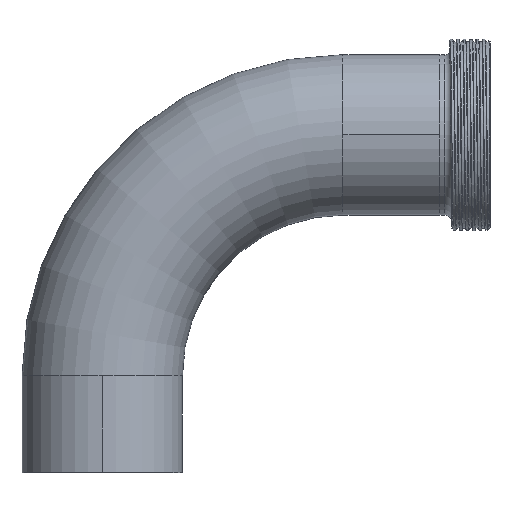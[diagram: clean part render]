
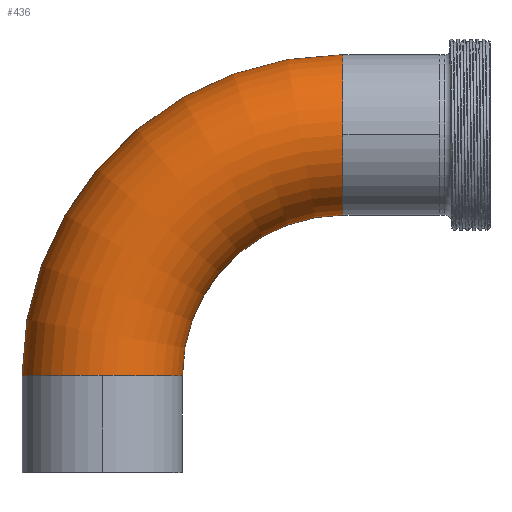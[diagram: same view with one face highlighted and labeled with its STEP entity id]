
A CAD part, top view. The second image highlights one B-rep face of the part: STEP entity #436.
In plain terms, the highlighted toroidal (fillet/blend) face has major radius 114.3 mm and minor radius 38.1 mm.
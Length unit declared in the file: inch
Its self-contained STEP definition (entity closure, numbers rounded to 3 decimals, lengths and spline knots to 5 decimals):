
#24 = AXIS2_PLACEMENT_3D ( 'NONE', #3889, #1695, #4258 ) ;
#179 = EDGE_CURVE ( 'NONE', #1312, #1256, #1627, .T. ) ;
#189 = CIRCLE ( 'NONE', #24, 3. ) ;
#326 = AXIS2_PLACEMENT_3D ( 'NONE', #674, #3207, #1031 ) ;
#337 = CIRCLE ( 'NONE', #326, 1.5 ) ;
#436 = ADVANCED_FACE ( 'NONE', ( #3203 ), #2239, .T. ) ;
#555 = EDGE_CURVE ( 'NONE', #4300, #1312, #337, .T. ) ;
#617 = ORIENTED_EDGE ( 'NONE', *, *, #2658, .T. ) ;
#646 = AXIS2_PLACEMENT_3D ( 'NONE', #3622, #1445, #4001 ) ;
#674 = CARTESIAN_POINT ( 'NONE',  ( 4.5, 6.312, 0. ) ) ;
#681 = VERTEX_POINT ( 'NONE', #4332 ) ;
#970 = DIRECTION ( 'NONE',  ( 1., 0., 0. ) ) ;
#1000 = DIRECTION ( 'NONE',  ( 0., 0., -1. ) ) ;
#1030 = DIRECTION ( 'NONE',  ( 0., 0., -1. ) ) ;
#1031 = DIRECTION ( 'NONE',  ( 0., 0., 1. ) ) ;
#1106 = ORIENTED_EDGE ( 'NONE', *, *, #179, .F. ) ;
#1256 = VERTEX_POINT ( 'NONE', #1938 ) ;
#1299 = CARTESIAN_POINT ( 'NONE',  ( 4.5, 7.812, 0. ) ) ;
#1312 = VERTEX_POINT ( 'NONE', #4465 ) ;
#1350 = CARTESIAN_POINT ( 'NONE',  ( -1.5, 1.812, 0. ) ) ;
#1445 = DIRECTION ( 'NONE',  ( 0., 1., 0. ) ) ;
#1487 = CARTESIAN_POINT ( 'NONE',  ( 0., 1.812, 0. ) ) ;
#1533 = ORIENTED_EDGE ( 'NONE', *, *, #3691, .F. ) ;
#1596 = AXIS2_PLACEMENT_3D ( 'NONE', #1487, #4056, #1859 ) ;
#1627 = CIRCLE ( 'NONE', #2335, 1.5 ) ;
#1684 = EDGE_CURVE ( 'NONE', #681, #1256, #189, .T. ) ;
#1695 = DIRECTION ( 'NONE',  ( 0., 0., -1. ) ) ;
#1859 = DIRECTION ( 'NONE',  ( 0., 0., 1. ) ) ;
#1938 = CARTESIAN_POINT ( 'NONE',  ( 4.5, 4.812, 0. ) ) ;
#2073 = ORIENTED_EDGE ( 'NONE', *, *, #4195, .T. ) ;
#2097 = DIRECTION ( 'NONE',  ( -1., 0., 0. ) ) ;
#2151 = AXIS2_PLACEMENT_3D ( 'NONE', #4622, #1000, #2097 ) ;
#2239 = TOROIDAL_SURFACE ( 'NONE', #2151, 4.5, 1.5 ) ;
#2335 = AXIS2_PLACEMENT_3D ( 'NONE', #3152, #970, #3517 ) ;
#2389 = AXIS2_PLACEMENT_3D ( 'NONE', #3206, #1030, #3575 ) ;
#2477 = ORIENTED_EDGE ( 'NONE', *, *, #555, .F. ) ;
#2511 = CARTESIAN_POINT ( 'NONE',  ( 0., 1.812, 1.5 ) ) ;
#2620 = CIRCLE ( 'NONE', #646, 1.5 ) ;
#2658 = EDGE_CURVE ( 'NONE', #3545, #3132, #2620, .T. ) ;
#3075 = ORIENTED_EDGE ( 'NONE', *, *, #1684, .T. ) ;
#3132 = VERTEX_POINT ( 'NONE', #2511 ) ;
#3152 = CARTESIAN_POINT ( 'NONE',  ( 4.5, 6.312, 0. ) ) ;
#3203 = FACE_OUTER_BOUND ( 'NONE', #3289, .T. ) ;
#3206 = CARTESIAN_POINT ( 'NONE',  ( 4.5, 1.812, 0. ) ) ;
#3207 = DIRECTION ( 'NONE',  ( 1., 0., 0. ) ) ;
#3289 = EDGE_LOOP ( 'NONE', ( #1533, #617, #2073, #3075, #1106, #2477 ) ) ;
#3343 = CIRCLE ( 'NONE', #1596, 1.5 ) ;
#3517 = DIRECTION ( 'NONE',  ( 0., 0., 1. ) ) ;
#3545 = VERTEX_POINT ( 'NONE', #1350 ) ;
#3575 = DIRECTION ( 'NONE',  ( -1., 0., 0. ) ) ;
#3622 = CARTESIAN_POINT ( 'NONE',  ( 0., 1.812, 0. ) ) ;
#3691 = EDGE_CURVE ( 'NONE', #3545, #4300, #4285, .T. ) ;
#3889 = CARTESIAN_POINT ( 'NONE',  ( 4.5, 1.812, 0. ) ) ;
#4001 = DIRECTION ( 'NONE',  ( 0., 0., 1. ) ) ;
#4056 = DIRECTION ( 'NONE',  ( 0., 1., 0. ) ) ;
#4195 = EDGE_CURVE ( 'NONE', #3132, #681, #3343, .T. ) ;
#4258 = DIRECTION ( 'NONE',  ( -1., 0., 0. ) ) ;
#4285 = CIRCLE ( 'NONE', #2389, 6. ) ;
#4300 = VERTEX_POINT ( 'NONE', #1299 ) ;
#4332 = CARTESIAN_POINT ( 'NONE',  ( 1.5, 1.812, 0. ) ) ;
#4465 = CARTESIAN_POINT ( 'NONE',  ( 4.5, 6.312, 1.5 ) ) ;
#4622 = CARTESIAN_POINT ( 'NONE',  ( 4.5, 1.812, 0. ) ) ;
